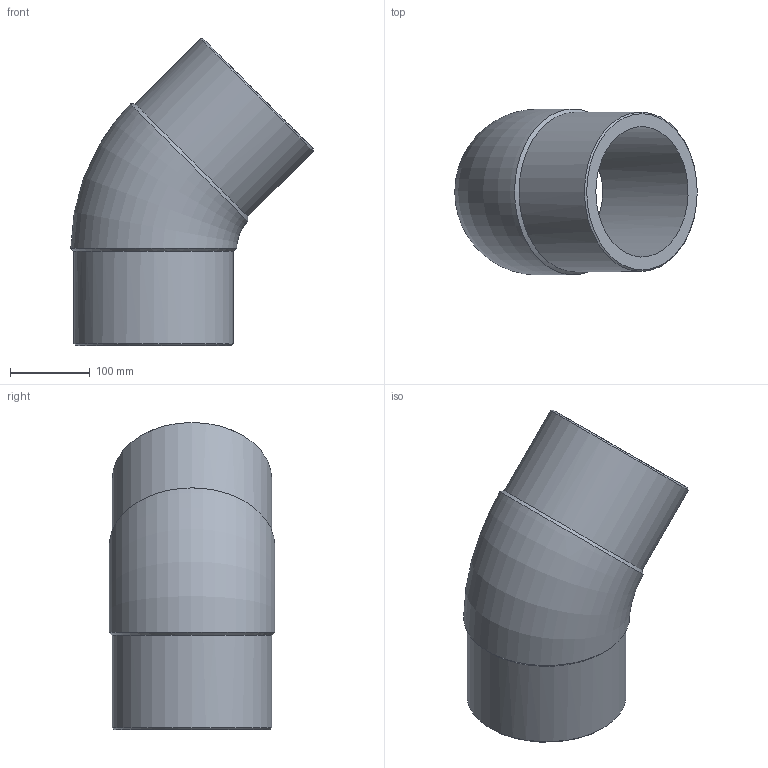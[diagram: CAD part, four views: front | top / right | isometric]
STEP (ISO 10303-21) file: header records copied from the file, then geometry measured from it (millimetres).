
FILE_DESCRIPTION(/* description */ ('Unknown'),/* implementation_level */ '2;1');
FILE_NAME(/* name */ 'G4P200C',/* time_stamp */ '2022-01-19T12:43:26+01:00',/* author */ ('Unknown'),/* organization */ ('Unknown'),/* preprocessor_version */ 'ST-DEVELOPER v18.1',/* originating_system */ 'Solid Edge',/* authorisation */ 'Unknown');
FILE_SCHEMA (('AUTOMOTIVE_DESIGN {1 0 10303 214 3 1 1}'));
Length unit declared in the file: millimetre
Products named in the file (1): G4P200C
Bounding box: 304.1 x 207.93 x 385.11 mm (x, y, z)
Volume: 4120660.1 mm3; surface area: 439564 mm2
Topology: 1 solids, 1 shells, 12 faces, 30 edges, 20 vertices
Faces by surface type: cone 4, cylinder 4, plane 2, torus 2
Full cylindrical faces by diameter (mm): 163.6 x2, 200 x2
Entity records: 462 total; most frequent: CARTESIAN_POINT 202, DIRECTION 48, ORIENTED_EDGE 34, AXIS2_PLACEMENT_3D 24, EDGE_LOOP 23, FACE_BOUND 23, EDGE_CURVE 17, VERTEX_POINT 16
